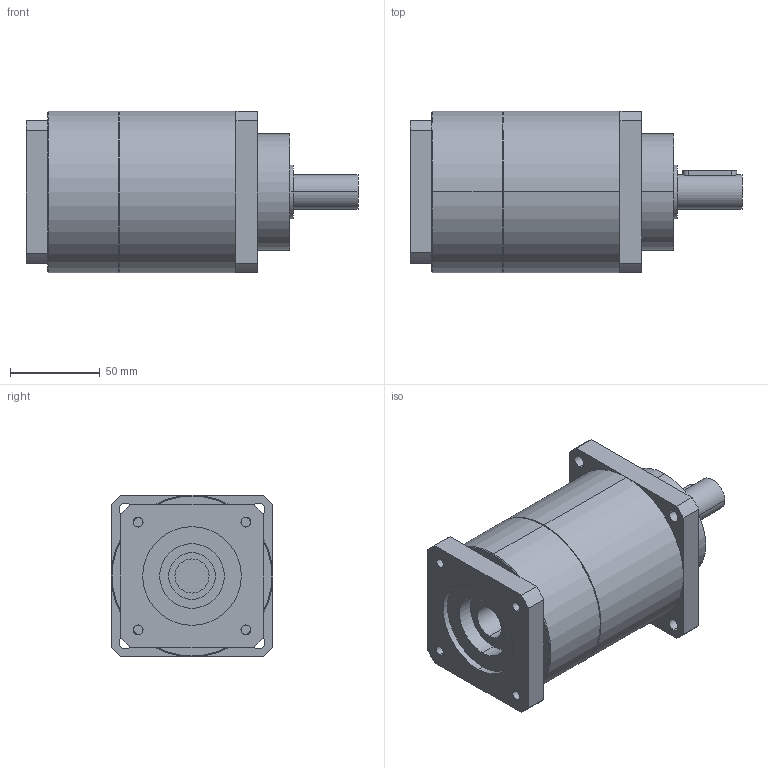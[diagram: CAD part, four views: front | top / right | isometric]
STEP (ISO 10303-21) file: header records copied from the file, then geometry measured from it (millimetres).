
FILE_DESCRIPTION(('CoCreate Modeling STEP Export'),'2;1');
FILE_NAME('GPT90_ig-9-12-16-20-25-28-35-40-50-70-100_19_B5T_19_P20.stp','2015-02-04T11:33:00',(''),(''),'CoCreate Modeling STEP processor for AP214 (Solid Model)','CoCreate Modeling 16.00C 25-Feb-2009 (C) Parametric Technology GmbH','');
FILE_SCHEMA(('AUTOMOTIVE_DESIGN { 1 0 10303 214 1 1 1 1 }'));
Length unit declared in the file: millimetre
Products named in the file (2): GPT90_ig-9-12-16-20-25-28-35-40-50-70-100_19_B5T_19_P20
Assembly tree (1 placements, depth 2):
  GPT90_ig-9-12-16-20-25-28-35-40-50-70-100_19_B5T_19_P20
    GPT90_ig-9-12-16-20-25-28-35-40-50-70-100_19_B5T_19_P20
Bounding box: 185 x 90 x 90 mm (x, y, z)
Volume: 883514.3 mm3; surface area: 66873 mm2
Topology: 1 solids, 1 shells, 88 faces, 237 edges, 156 vertices
Faces by surface type: cylinder 46, plane 38, cone 4
Entity records: 2783 total; most frequent: CARTESIAN_POINT 766, ORIENTED_EDGE 474, DIRECTION 338, EDGE_CURVE 237, VERTEX_POINT 156, AXIS2_PLACEMENT_3D 125, EDGE_LOOP 109, VECTOR 88
